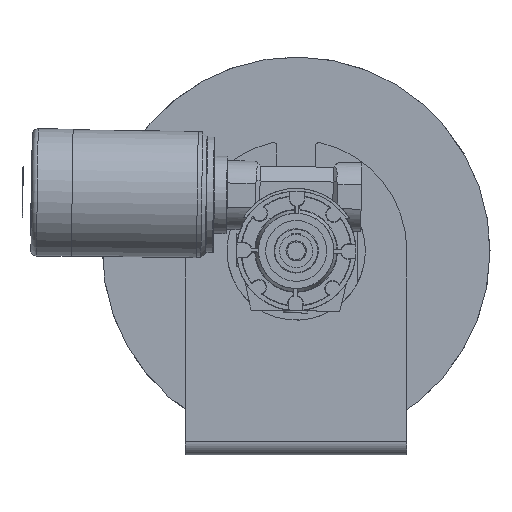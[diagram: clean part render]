
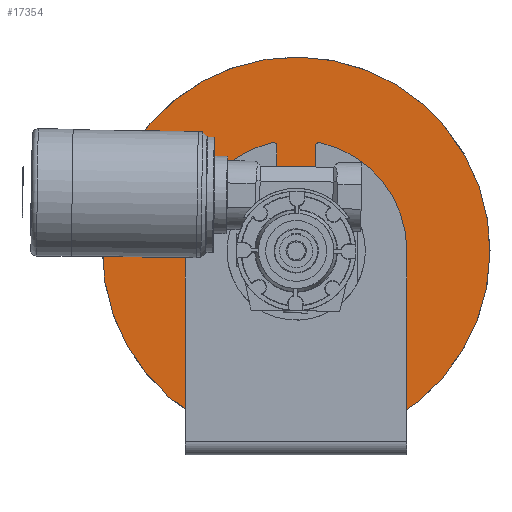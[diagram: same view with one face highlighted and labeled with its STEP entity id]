
A CAD part, left-side view. The second image highlights one B-rep face of the part: STEP entity #17354.
In plain terms, the highlighted planar face has unit normal (-1, 0, 0).
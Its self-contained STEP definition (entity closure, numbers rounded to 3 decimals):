
#432=FACE_BOUND('',#2895,.T.);
#840=PLANE('',#19502);
#1817=FACE_OUTER_BOUND('',#2894,.T.);
#2894=EDGE_LOOP('',(#15814));
#2895=EDGE_LOOP('',(#15815));
#4092=CIRCLE('',#19503,175.);
#4093=CIRCLE('',#19504,21.);
#8190=VERTEX_POINT('',#31803);
#8191=VERTEX_POINT('',#31805);
#10748=EDGE_CURVE('',#8190,#8190,#4092,.T.);
#10749=EDGE_CURVE('',#8191,#8191,#4093,.T.);
#15814=ORIENTED_EDGE('',*,*,#10748,.F.);
#15815=ORIENTED_EDGE('',*,*,#10749,.F.);
#17354=ADVANCED_FACE('',(#1817,#432),#840,.F.);
#19502=AXIS2_PLACEMENT_3D('',#31802,#24960,#24961);
#19503=AXIS2_PLACEMENT_3D('',#31804,#24962,#24963);
#19504=AXIS2_PLACEMENT_3D('',#31806,#24964,#24965);
#24960=DIRECTION('center_axis',(1.,0.,0.));
#24961=DIRECTION('ref_axis',(0.,0.988,-0.156));
#24962=DIRECTION('center_axis',(1.,0.,0.));
#24963=DIRECTION('ref_axis',(0.,0.988,-0.156));
#24964=DIRECTION('center_axis',(-1.,0.,0.));
#24965=DIRECTION('ref_axis',(0.,0.,1.));
#31802=CARTESIAN_POINT('Origin',(-142.876,0.,
184.214));
#31803=CARTESIAN_POINT('',(-142.876,-172.864,211.476));
#31804=CARTESIAN_POINT('Origin',(-142.876,0.,
184.214));
#31805=CARTESIAN_POINT('',(-142.876,0.,163.214));
#31806=CARTESIAN_POINT('Origin',(-142.876,0.,
184.214));
